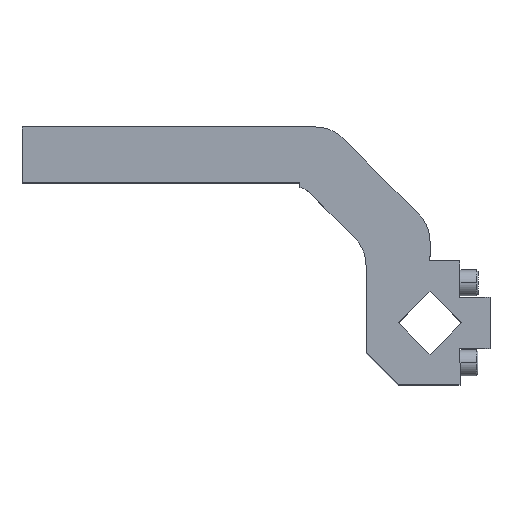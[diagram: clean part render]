
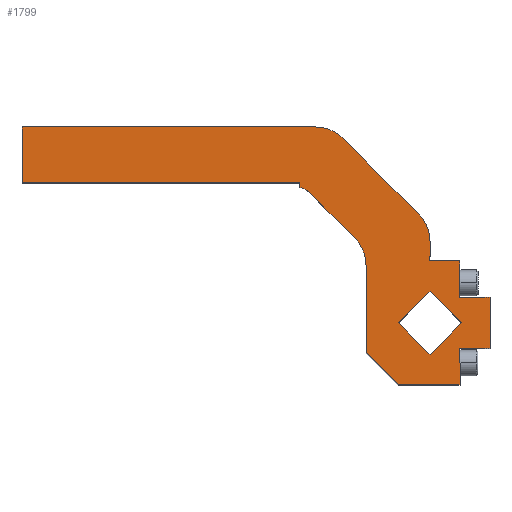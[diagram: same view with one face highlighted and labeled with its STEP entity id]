
A CAD part, top view. The second image highlights one B-rep face of the part: STEP entity #1799.
In plain terms, the highlighted planar face has unit normal (0, 0, 1).
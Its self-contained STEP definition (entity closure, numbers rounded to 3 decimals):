
#681=CARTESIAN_POINT('',(-204.,70.,20.0));
#682=VERTEX_POINT('',#681);
#689=CARTESIAN_POINT('',(-204.,98.,20.0));
#690=VERTEX_POINT('',#689);
#691=CARTESIAN_POINT('',(-204.,98.,20.0));
#692=DIRECTION('',(0.0,-1.0,0.0));
#693=VECTOR('',#692,28.);
#694=LINE('',#691,#693);
#695=EDGE_CURVE('',#690,#682,#694,.T.);
#867=CARTESIAN_POINT('',(15.556,0.,20.));
#868=VERTEX_POINT('',#867);
#875=CARTESIAN_POINT('',(0.,15.556,20.0));
#876=VERTEX_POINT('',#875);
#877=CARTESIAN_POINT('',(0.,15.556,20.0));
#878=DIRECTION('',(0.707,-0.707,0.));
#879=VECTOR('',#878,22.);
#880=LINE('',#877,#879);
#881=EDGE_CURVE('',#876,#868,#880,.T.);
#905=CARTESIAN_POINT('',(0.,-15.556,20.0));
#906=VERTEX_POINT('',#905);
#913=CARTESIAN_POINT('',(15.556,0.,20.));
#914=DIRECTION('',(-0.707,-0.707,0.));
#915=VECTOR('',#914,22.);
#916=LINE('',#913,#915);
#917=EDGE_CURVE('',#868,#906,#916,.T.);
#938=CARTESIAN_POINT('',(15.,-12.75,20.));
#939=VERTEX_POINT('',#938);
#946=CARTESIAN_POINT('',(15.,-31.,20.));
#947=VERTEX_POINT('',#946);
#948=CARTESIAN_POINT('',(15.,-31.,20.));
#949=DIRECTION('',(0.0,1.0,0.0));
#950=VECTOR('',#949,18.25);
#951=LINE('',#948,#950);
#952=EDGE_CURVE('',#947,#939,#951,.T.);
#980=CARTESIAN_POINT('',(30.,-12.75,20.));
#981=VERTEX_POINT('',#980);
#988=CARTESIAN_POINT('',(15.,-12.75,20.));
#989=DIRECTION('',(1.0,0.0,0.0));
#990=VECTOR('',#989,15.0);
#991=LINE('',#988,#990);
#992=EDGE_CURVE('',#939,#981,#991,.T.);
#1011=CARTESIAN_POINT('',(30.,12.75,20.));
#1012=VERTEX_POINT('',#1011);
#1019=CARTESIAN_POINT('',(30.,-12.75,20.));
#1020=DIRECTION('',(0.0,1.0,0.0));
#1021=VECTOR('',#1020,25.5);
#1022=LINE('',#1019,#1021);
#1023=EDGE_CURVE('',#981,#1012,#1022,.T.);
#1042=CARTESIAN_POINT('',(15.,12.75,20.));
#1043=VERTEX_POINT('',#1042);
#1050=CARTESIAN_POINT('',(30.,12.75,20.));
#1051=DIRECTION('',(-1.0,0.0,0.0));
#1052=VECTOR('',#1051,15.0);
#1053=LINE('',#1050,#1052);
#1054=EDGE_CURVE('',#1012,#1043,#1053,.T.);
#1073=CARTESIAN_POINT('',(15.,31.,20.));
#1074=VERTEX_POINT('',#1073);
#1081=CARTESIAN_POINT('',(15.,12.75,20.));
#1082=DIRECTION('',(0.0,1.0,0.0));
#1083=VECTOR('',#1082,18.25);
#1084=LINE('',#1081,#1083);
#1085=EDGE_CURVE('',#1043,#1074,#1084,.T.);
#1100=CARTESIAN_POINT('',(0.,31.,20.));
#1101=VERTEX_POINT('',#1100);
#1110=CARTESIAN_POINT('',(15.,31.,20.));
#1111=DIRECTION('',(-1.0,0.0,0.0));
#1112=VECTOR('',#1111,15.);
#1113=LINE('',#1110,#1112);
#1114=EDGE_CURVE('',#1074,#1101,#1113,.T.);
#1140=CARTESIAN_POINT('',(0.,40.506,20.0));
#1141=VERTEX_POINT('',#1140);
#1148=CARTESIAN_POINT('',(0.,40.506,20.0));
#1149=DIRECTION('',(0.,-1.0,0.));
#1150=VECTOR('',#1149,9.506);
#1151=LINE('',#1148,#1150);
#1152=EDGE_CURVE('',#1141,#1101,#1151,.T.);
#1258=CARTESIAN_POINT('',(-43.352,92.142,20.0));
#1259=VERTEX_POINT('',#1258);
#1260=CARTESIAN_POINT('',(-5.858,54.648,20.0));
#1261=VERTEX_POINT('',#1260);
#1262=CARTESIAN_POINT('',(-43.352,92.142,20.0));
#1263=DIRECTION('',(0.707,-0.707,0.0));
#1264=VECTOR('',#1263,53.024);
#1265=LINE('',#1262,#1264);
#1266=EDGE_CURVE('',#1259,#1261,#1265,.T.);
#1298=CARTESIAN_POINT('',(-20.,40.506,20.0));
#1299=DIRECTION('',(0.0,0.0,-1.0));
#1300=DIRECTION('',(1.0,0.0,0.0));
#1301=AXIS2_PLACEMENT_3D('',#1298,#1299,#1300);
#1302=CIRCLE('',#1301,20.);
#1303=EDGE_CURVE('',#1261,#1141,#1302,.T.);
#1322=CARTESIAN_POINT('',(-15.556,0.0,20.0));
#1323=VERTEX_POINT('',#1322);
#1324=CARTESIAN_POINT('',(0.,15.556,20.0));
#1325=DIRECTION('',(-0.707,-0.707,0.0));
#1326=VECTOR('',#1325,22.);
#1327=LINE('',#1324,#1326);
#1328=EDGE_CURVE('',#876,#1323,#1327,.T.);
#1353=CARTESIAN_POINT('',(-15.556,0.0,20.0));
#1354=DIRECTION('',(0.707,-0.707,0.0));
#1355=VECTOR('',#1354,22.);
#1356=LINE('',#1353,#1355);
#1357=EDGE_CURVE('',#1323,#906,#1356,.T.);
#1375=CARTESIAN_POINT('',(-16.,-31.,20.0));
#1376=VERTEX_POINT('',#1375);
#1377=CARTESIAN_POINT('',(15.,-31.,20.));
#1378=DIRECTION('',(-1.0,0.0,0.0));
#1379=VECTOR('',#1378,31.);
#1380=LINE('',#1377,#1379);
#1381=EDGE_CURVE('',#947,#1376,#1380,.T.);
#1406=CARTESIAN_POINT('',(-32.,-15.,20.0));
#1407=VERTEX_POINT('',#1406);
#1408=CARTESIAN_POINT('',(-16.,-31.,20.0));
#1409=DIRECTION('',(-0.707,0.707,0.0));
#1410=VECTOR('',#1409,22.627);
#1411=LINE('',#1408,#1410);
#1412=EDGE_CURVE('',#1376,#1407,#1411,.T.);
#1437=CARTESIAN_POINT('',(-32.,28.665,20.0));
#1438=VERTEX_POINT('',#1437);
#1439=CARTESIAN_POINT('',(-32.,-15.,20.0));
#1440=DIRECTION('',(0.0,1.0,0.0));
#1441=VECTOR('',#1440,43.665);
#1442=LINE('',#1439,#1441);
#1443=EDGE_CURVE('',#1407,#1438,#1442,.T.);
#1468=CARTESIAN_POINT('',(-37.858,42.808,20.0));
#1469=VERTEX_POINT('',#1468);
#1470=CARTESIAN_POINT('',(-52.,28.665,20.0));
#1471=DIRECTION('',(0.0,0.0,1.0));
#1472=DIRECTION('',(-1.0,0.0,0.0));
#1473=AXIS2_PLACEMENT_3D('',#1470,#1471,#1472);
#1474=CIRCLE('',#1473,20.0);
#1475=EDGE_CURVE('',#1438,#1469,#1474,.T.);
#1501=CARTESIAN_POINT('',(-60.121,65.071,20.0));
#1502=VERTEX_POINT('',#1501);
#1503=CARTESIAN_POINT('',(-37.858,42.808,20.0));
#1504=DIRECTION('',(-0.707,0.707,0.0));
#1505=VECTOR('',#1504,31.485);
#1506=LINE('',#1503,#1505);
#1507=EDGE_CURVE('',#1469,#1502,#1506,.T.);
#1532=CARTESIAN_POINT('',(-65.,67.757,20.0));
#1533=VERTEX_POINT('',#1532);
#1534=CARTESIAN_POINT('',(-67.192,58.,20.0));
#1535=DIRECTION('',(0.0,0.0,1.));
#1536=DIRECTION('',(-0.707,-0.707,0.0));
#1537=AXIS2_PLACEMENT_3D('',#1534,#1535,#1536);
#1538=CIRCLE('',#1537,10.);
#1539=EDGE_CURVE('',#1502,#1533,#1538,.T.);
#1565=CARTESIAN_POINT('',(-65.,70.,20.0));
#1566=VERTEX_POINT('',#1565);
#1567=CARTESIAN_POINT('',(-65.,67.757,20.0));
#1568=DIRECTION('',(0.,1.0,0.0));
#1569=VECTOR('',#1568,2.243);
#1570=LINE('',#1567,#1569);
#1571=EDGE_CURVE('',#1533,#1566,#1570,.T.);
#1596=CARTESIAN_POINT('',(-204.,70.,20.0));
#1597=DIRECTION('',(1.0,0.0,0.0));
#1598=VECTOR('',#1597,139.);
#1599=LINE('',#1596,#1598);
#1600=EDGE_CURVE('',#682,#1566,#1599,.T.);
#1650=CARTESIAN_POINT('',(-57.494,98.,20.0));
#1651=VERTEX_POINT('',#1650);
#1652=CARTESIAN_POINT('',(-204.,98.,20.0));
#1653=DIRECTION('',(1.0,0.0,0.0));
#1654=VECTOR('',#1653,146.506);
#1655=LINE('',#1652,#1654);
#1656=EDGE_CURVE('',#690,#1651,#1655,.T.);
#1713=CARTESIAN_POINT('',(-57.494,78.,20.0));
#1714=DIRECTION('',(0.0,0.0,-1.));
#1715=DIRECTION('',(0.707,0.707,0.0));
#1716=AXIS2_PLACEMENT_3D('',#1713,#1714,#1715);
#1717=CIRCLE('',#1716,20.);
#1718=EDGE_CURVE('',#1651,#1259,#1717,.T.);
#1766=CARTESIAN_POINT('',(-56.259,49.885,20.0));
#1767=DIRECTION('',(0.0,0.0,1.0));
#1768=DIRECTION('',(1.0,0.0,0.0));
#1769=AXIS2_PLACEMENT_3D('',#1766,#1767,#1768);
#1770=PLANE('',#1769);
#1771=ORIENTED_EDGE('',*,*,#1381,.F.);
#1772=ORIENTED_EDGE('',*,*,#952,.T.);
#1773=ORIENTED_EDGE('',*,*,#992,.T.);
#1774=ORIENTED_EDGE('',*,*,#1023,.T.);
#1775=ORIENTED_EDGE('',*,*,#1054,.T.);
#1776=ORIENTED_EDGE('',*,*,#1085,.T.);
#1777=ORIENTED_EDGE('',*,*,#1114,.T.);
#1778=ORIENTED_EDGE('',*,*,#1152,.F.);
#1779=ORIENTED_EDGE('',*,*,#1303,.F.);
#1780=ORIENTED_EDGE('',*,*,#1266,.F.);
#1781=ORIENTED_EDGE('',*,*,#1718,.F.);
#1782=ORIENTED_EDGE('',*,*,#1656,.F.);
#1783=ORIENTED_EDGE('',*,*,#695,.T.);
#1784=ORIENTED_EDGE('',*,*,#1600,.T.);
#1785=ORIENTED_EDGE('',*,*,#1571,.F.);
#1786=ORIENTED_EDGE('',*,*,#1539,.F.);
#1787=ORIENTED_EDGE('',*,*,#1507,.F.);
#1788=ORIENTED_EDGE('',*,*,#1475,.F.);
#1789=ORIENTED_EDGE('',*,*,#1443,.F.);
#1790=ORIENTED_EDGE('',*,*,#1412,.F.);
#1791=EDGE_LOOP('',(#1771,#1772,#1773,#1774,#1775,#1776,#1777,#1778,#1779,#1780,#1781,#1782,#1783,#1784,#1785,#1786,#1787,#1788,#1789,#1790));
#1792=FACE_OUTER_BOUND('',#1791,.T.);
#1793=ORIENTED_EDGE('',*,*,#1357,.F.);
#1794=ORIENTED_EDGE('',*,*,#1328,.F.);
#1795=ORIENTED_EDGE('',*,*,#881,.T.);
#1796=ORIENTED_EDGE('',*,*,#917,.T.);
#1797=EDGE_LOOP('',(#1793,#1794,#1795,#1796));
#1798=FACE_BOUND('',#1797,.T.);
#1799=ADVANCED_FACE('',(#1792,#1798),#1770,.T.);
